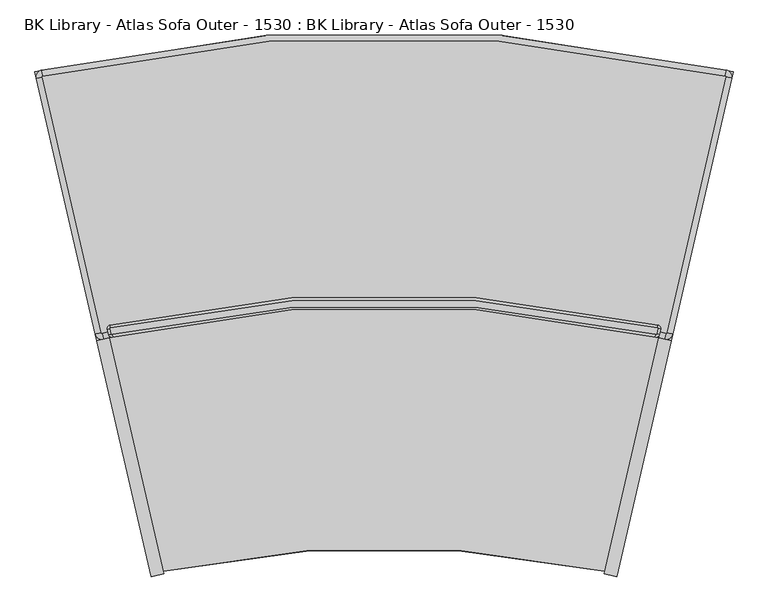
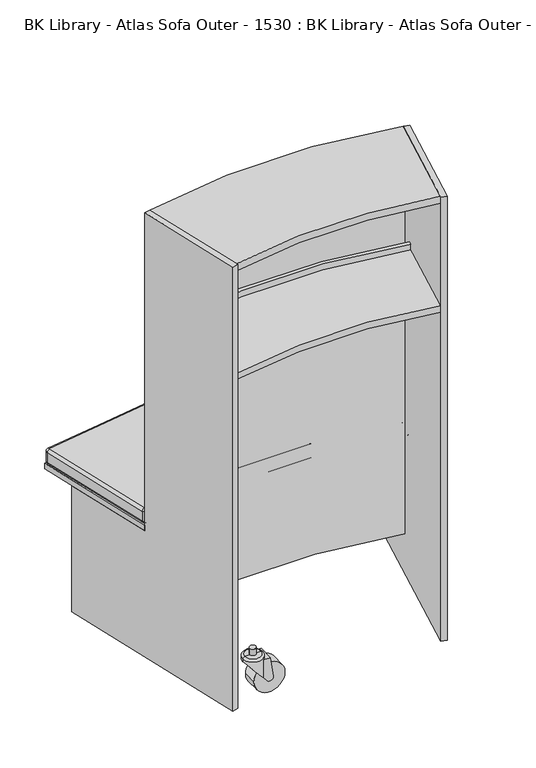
"""IFC4 building model written with IfcOpenShell, lengths in millimetres: furniture geometry, BK Library - Atlas Sofa Outer - 1530 : BK Library - Atlas Sofa Outer - 1530."""

from ifc_helpers import new_model, si_unit, point, frame, frame_2d, origin, place, context, project, spatial, polyline, circle_curve, ellipse_curve, trimmed, segment, composite_curve, outline, extrude, source, transform, mapped, element, save
from ifc_brep_helpers import plane_surface, cylinder_surface, revolved_surface, advanced_brep


def bk_library_atlas_sofa_outer_1530_bk_library_atlas_sofa_outer_527756fa(model_context):
    return source(origin(), model_context, "Body", "SolidModel", [
        extrude(outline(composite_curve([segment(trimmed(circle_curve(frame_2d((0.0, -1840.4430404)), 1557.6392973), [point((327.6944521, -317.663829))], [point((-327.6944521, -317.663829))], True, "CARTESIAN"), True, "CONTINUOUS"), segment(polyline([(-327.6944521, -317.663829), (-394.2058088, -29.2269986)]), True, "CONTINUOUS"), segment(trimmed(circle_curve(frame_2d((0.0, -1785.1487517)), 1799.627579), [point((-394.2058088, -29.2269986))], [point((394.2058088, -29.2269986))], False, "CARTESIAN"), True, "CONTINUOUS"), segment(polyline([(394.2058088, -29.2269986), (327.6944521, -317.663829)]), True, "CONTINUOUS")], self_intersect=False)), frame((0.0, 0.0, 1131.6999998), z_axis=(0.0, 0.0, 1.0), x_axis=(1.0, 0.0, 0.0)), (0.0, 0.0, 1.0), 22.0),
        extrude(outline(composite_curve([segment(trimmed(circle_curve(frame_2d((0.0, -1785.1487517)), 1799.627579), [point((-394.2058088, -29.2269986))], [point((394.2058088, -29.2269986))], False, "CARTESIAN"), True, "CONTINUOUS"), segment(polyline([(394.2058088, -29.2269986), (391.2848087, -41.8943694)]), True, "CONTINUOUS"), segment(trimmed(circle_curve(frame_2d((0.0, -1790.5831955)), 1791.9309172), [point((391.2848087, -41.8943694))], [point((-391.2848087, -41.8943694))], True, "CARTESIAN"), True, "CONTINUOUS"), segment(polyline([(-391.2848087, -41.8943694), (-394.2058088, -29.2269986)]), True, "CONTINUOUS")], self_intersect=False)), frame((0.0, 0.0, 1153.6999998), z_axis=(0.0, 0.0, 1.0), x_axis=(1.0, 0.0, 0.0)), (0.0, 0.0, 1.0), 20.0),
        advanced_brep(
        [(403.7139871, 34.2467546, 912.6999998), (404.9104332, 34.9971014, 912.6999998), (406.7463468, 42.9588262, 912.6999998), (405.9919545, 44.1590138, 912.6999998), (-405.9919545, 44.1590138, 912.6999998), (-406.7463468, 42.9588262, 912.6999998), (-404.9104332, 34.9971014, 912.6999998), (-403.7139871, 34.2467546, 912.6999998), (404.9104332, 34.9971014, 512.6999998), (403.7139871, 34.2467546, 512.6999998), (-403.7139871, 34.2467546, 512.6999998), (-404.9104332, 34.9971014, 512.6999998), (-406.7463468, 42.9588262, 512.6999998), (-405.9919545, 44.1590138, 512.6999998), (405.9919545, 44.1590138, 512.6999998), (406.7463468, 42.9588262, 512.6999998), (408.8081489, 34.0983176, 908.6999998), (402.8259182, 30.3465836, 908.6999998), (402.8259182, 30.3465836, 516.6999998), (408.8081489, 34.0983176, 516.6999998), (410.6440625, 42.0600424, 908.6999998), (410.6440625, 42.0600424, 516.6999998), (406.872101, 48.0609802, 908.6999998), (406.872101, 48.0609802, 516.6999998), (-406.872101, 48.0609802, 908.6999998), (-406.872101, 48.0609802, 516.6999998), (-410.6440625, 42.0600424, 908.6999998), (-410.6440625, 42.0600424, 516.6999998), (-408.8081489, 34.0983176, 908.6999998), (-408.8081489, 34.0983176, 516.6999998), (-402.8259182, 30.3465836, 908.6999998), (-402.8259182, 30.3465836, 516.6999998)],
        [
            (0, 1, circle_curve(frame((403.9360043, 35.2217973, 912.6999998), z_axis=(0.0, 0.0, 1.0), x_axis=(-0.22201720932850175, -0.9750427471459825, 0.0)), 1.0)),
            (1, 2),
            (2, 3, circle_curve(frame((405.7719179, 43.1835222, 912.6999998), z_axis=(0.0, 0.0, 1.0), x_axis=(0.9744289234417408, -0.22469595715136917, 0.0)), 1.0)),
            (3, 4, circle_curve(frame((0.0, -1755.7311313, 912.6999998), z_axis=(0.0, 0.0, 1.0), x_axis=(0.22003662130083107, 0.9754916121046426, 0.0)), 1845.1108372)),
            (4, 5, circle_curve(frame((-405.7719179, 43.1835222, 912.6999998), z_axis=(0.0, 0.0, 1.0), x_axis=(-0.22003662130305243, 0.9754916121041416, 0.0)), 1.0)),
            (5, 6),
            (6, 7, circle_curve(frame((-403.9360043, 35.2217973, 912.6999998), z_axis=(0.0, 0.0, 1.0), x_axis=(-0.97442892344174, -0.22469595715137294, 0.0)), 1.0)),
            (7, 0, circle_curve(frame((0.0, -1738.7617261, 912.6999998), z_axis=(0.0, 0.0, -1.0), x_axis=(-0.2220172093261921, 0.9750427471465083, 0.0)), 1818.3905125)),
            (8, 9, circle_curve(frame((403.9360043, 35.2217973, 512.6999998), z_axis=(0.0, 0.0, -1.0), x_axis=(-0.22201720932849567, -0.9750427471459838, 0.0)), 1.0)),
            (9, 10, circle_curve(frame((0.0, -1738.7617261, 512.6999998), z_axis=(0.0, 0.0, 1.0), x_axis=(-0.2220172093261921, 0.9750427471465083, 0.0)), 1818.3905125)),
            (10, 11, circle_curve(frame((-403.9360043, 35.2217973, 512.6999998), z_axis=(0.0, 0.0, -1.0), x_axis=(-0.97442892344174, -0.22469595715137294, 0.0)), 1.0)),
            (11, 12),
            (12, 13, circle_curve(frame((-405.7719179, 43.1835222, 512.6999998), z_axis=(0.0, 0.0, -1.0), x_axis=(-0.22003662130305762, 0.9754916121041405, 0.0)), 1.0)),
            (13, 14, circle_curve(frame((0.0, -1755.7311313, 512.6999998), z_axis=(0.0, 0.0, -1.0), x_axis=(0.22003662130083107, 0.9754916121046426, 0.0)), 1845.1108372)),
            (14, 15, circle_curve(frame((405.7719179, 43.1835222, 512.6999998), z_axis=(0.0, 0.0, -1.0), x_axis=(0.9744289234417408, -0.22469595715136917, 0.0)), 1.0)),
            (15, 8),
            (16, 17, circle_curve(frame((403.9360043, 35.2217973, 908.6999998), z_axis=(0.0, 0.0, -1.0), x_axis=(1.0, 0.0, 0.0)), 5.0)),
            (17, 18),
            (18, 19, circle_curve(frame((403.9360043, 35.2217973, 516.6999998), z_axis=(0.0, 0.0, 1.0), x_axis=(1.0, 0.0, 0.0)), 5.0)),
            (19, 16),
            (20, 16),
            (19, 21),
            (21, 20),
            (22, 20, circle_curve(frame((405.7719179, 43.1835222, 908.6999998), z_axis=(0.0, 0.0, -1.0), x_axis=(1.0, 0.0, 0.0)), 5.0)),
            (21, 23, circle_curve(frame((405.7719179, 43.1835222, 516.6999998), z_axis=(0.0, 0.0, 1.0), x_axis=(1.0, 0.0, 0.0)), 5.0)),
            (23, 22),
            (24, 22, circle_curve(frame((0.0, -1755.7311313, 908.6999998), z_axis=(0.0, 0.0, -1.0), x_axis=(1.0, 0.0, 0.0)), 1849.1108372)),
            (23, 25, circle_curve(frame((0.0, -1755.7311313, 516.6999998), z_axis=(0.0, 0.0, 1.0), x_axis=(1.0, 0.0, 0.0)), 1849.1108372)),
            (25, 24),
            (26, 24, circle_curve(frame((-405.7719179, 43.1835222, 908.6999998), z_axis=(0.0, 0.0, -1.0), x_axis=(1.0, 0.0, 0.0)), 5.0)),
            (25, 27, circle_curve(frame((-405.7719179, 43.1835222, 516.6999998), z_axis=(0.0, 0.0, 1.0), x_axis=(1.0, 0.0, 0.0)), 5.0)),
            (27, 26),
            (28, 26),
            (27, 29),
            (29, 28),
            (30, 28, circle_curve(frame((-403.9360043, 35.2217973, 908.6999998), z_axis=(0.0, 0.0, -1.0), x_axis=(1.0, 0.0, 0.0)), 5.0)),
            (29, 31, circle_curve(frame((-403.9360043, 35.2217973, 516.6999998), z_axis=(0.0, 0.0, 1.0), x_axis=(1.0, 0.0, 0.0)), 5.0)),
            (31, 30),
            (17, 30, circle_curve(frame((0.0, -1738.7617261, 908.6999998), z_axis=(0.0, 0.0, 1.0), x_axis=(1.0, 0.0, 0.0)), 1814.3905125)),
            (31, 18, circle_curve(frame((0.0, -1738.7617261, 516.6999998), z_axis=(0.0, 0.0, -1.0), x_axis=(1.0, 0.0, 0.0)), 1814.3905125)),
            (16, 1, circle_curve(frame((404.9104332, 34.9971014, 908.6999998), z_axis=(-0.22469595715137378, -0.9744289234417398, 0.0), x_axis=(-0.9744289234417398, 0.22469595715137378, 0.0)), 4.0)),
            (0, 17, circle_curve(frame((403.7139871, 34.2467546, 908.6999998), z_axis=(0.9750427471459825, -0.2220172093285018, 0.0), x_axis=(0.2220172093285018, 0.9750427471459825, 0.0)), 4.0)),
            (20, 2, circle_curve(frame((406.7463468, 42.9588262, 908.6999998), z_axis=(-0.22469595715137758, -0.974428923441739, 0.0), x_axis=(-0.974428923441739, 0.22469595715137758, 0.0)), 4.0)),
            (22, 3, circle_curve(frame((405.9919545, 44.1590138, 908.6999998), z_axis=(0.9754916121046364, -0.22003662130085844, 0.0), x_axis=(-0.22003662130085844, -0.9754916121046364, 0.0)), 4.0)),
            (24, 4, circle_curve(frame((-405.9919545, 44.1590138, 908.6999998), z_axis=(0.9754916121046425, 0.22003662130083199, 0.0), x_axis=(0.22003662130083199, -0.9754916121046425, 0.0)), 4.0)),
            (26, 5, circle_curve(frame((-406.7463468, 42.9588262, 908.6999998), z_axis=(-0.22469595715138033, 0.9744289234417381, 0.0), x_axis=(0.9744289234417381, 0.22469595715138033, 0.0)), 4.0)),
            (28, 6, circle_curve(frame((-404.9104332, 34.9971014, 908.6999998), z_axis=(-0.22469595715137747, 0.974428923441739, 0.0), x_axis=(0.974428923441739, 0.22469595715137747, 0.0)), 4.0)),
            (30, 7, circle_curve(frame((-403.7139871, 34.2467546, 908.6999998), z_axis=(-0.9750427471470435, -0.22201720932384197, 0.0), x_axis=(-0.22201720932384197, 0.9750427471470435, 0.0)), 4.0)),
            (8, 19, circle_curve(frame((404.9104332, 34.9971014, 516.6999998), z_axis=(-0.22469595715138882, -0.9744289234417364, 0.0), x_axis=(-0.9744289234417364, 0.22469595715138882, 0.0)), 4.0)),
            (18, 9, circle_curve(frame((403.7139871, 34.2467546, 516.6999998), z_axis=(0.9750427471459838, -0.22201720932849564, 0.0), x_axis=(0.22201720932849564, 0.9750427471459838, 0.0)), 4.0)),
            (15, 21, circle_curve(frame((406.7463468, 42.9588262, 516.6999998), z_axis=(-0.2246959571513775, -0.974428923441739, 0.0), x_axis=(-0.974428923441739, 0.2246959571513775, 0.0)), 4.0)),
            (14, 23, circle_curve(frame((405.9919545, 44.1590138, 516.6999998), z_axis=(0.9754916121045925, -0.2200366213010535, 0.0), x_axis=(-0.2200366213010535, -0.9754916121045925, 0.0)), 4.0)),
            (13, 25, circle_curve(frame((-405.9919545, 44.1590138, 516.6999998), z_axis=(0.9754916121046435, 0.22003662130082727, 0.0), x_axis=(0.22003662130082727, -0.9754916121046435, 0.0)), 4.0)),
            (12, 27, circle_curve(frame((-406.7463468, 42.9588262, 516.6999998), z_axis=(-0.22469595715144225, 0.974428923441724, 0.0), x_axis=(0.974428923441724, 0.22469595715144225, 0.0)), 4.0)),
            (11, 29, circle_curve(frame((-404.9104332, 34.9971014, 516.6999998), z_axis=(-0.22469595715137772, 0.974428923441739, 0.0), x_axis=(0.974428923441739, 0.22469595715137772, 0.0)), 4.0)),
            (10, 31, circle_curve(frame((-403.7139871, 34.2467546, 516.6999998), z_axis=(-0.9750427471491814, -0.22201720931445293, 0.0), x_axis=(-0.22201720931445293, 0.9750427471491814, 0.0)), 4.0)),
        ],
        [
            plane_surface(frame((408.9360043, 35.2217973, 912.6999998), z_axis=(0.0, 0.0, 1.0), x_axis=(0.0, 1.0, 0.0))),
            plane_surface(frame((408.9360043, 35.2217973, 512.6999998), z_axis=(0.0, 0.0, -1.0), x_axis=(0.0, -1.0, 0.0))),
            cylinder_surface(frame((403.9360043, 35.2217973, 512.6999998), z_axis=(0.0, 0.0, 1.0), x_axis=(1.0, 0.0, 0.0)), 5.0),
            plane_surface(frame((408.8081489, 34.0983176, 912.6999998), z_axis=(0.9744289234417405, -0.22469595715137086, 0.0), x_axis=(0.0, 0.0, -1.0))),
            cylinder_surface(frame((405.7719179, 43.1835222, 512.6999998), z_axis=(0.0, 0.0, 1.0), x_axis=(1.0, 0.0, 0.0)), 5.0),
            cylinder_surface(frame((0.0, -1755.7311313, 512.6999998), z_axis=(0.0, 0.0, 1.0), x_axis=(1.0, 0.0, 0.0)), 1849.1108372),
            cylinder_surface(frame((-405.7719179, 43.1835222, 512.6999998), z_axis=(0.0, 0.0, 1.0), x_axis=(1.0, 0.0, 0.0)), 5.0),
            plane_surface(frame((-410.6440625, 42.0600424, 912.6999998), z_axis=(-0.974428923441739, -0.2246959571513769, 0.0), x_axis=(0.0, 0.0, -1.0))),
            cylinder_surface(frame((-403.9360043, 35.2217973, 512.6999998), z_axis=(0.0, 0.0, 1.0), x_axis=(1.0, 0.0, 0.0)), 5.0),
            revolved_surface(polyline([(1814.3905125, -1738.7617261, 516.6999998), (1814.3905125, -1738.7617261, 908.6999998)]), (0.0, -1738.7617261, 512.6999998), (0.0, 0.0, -1.0)),
            revolved_surface(trimmed(ellipse_curve(frame((403.7139871, 34.2467546, 908.6999998), z_axis=(-0.9750427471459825, 0.2220172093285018, 0.0), x_axis=(0.2220172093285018, 0.9750427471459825, 0.0)), 4.0, 4.0), [point((402.8259182, 30.3465836, 908.6999998))], [point((403.7139871, 34.2467546, 912.6999998))], True, "CARTESIAN"), (403.9360043, 35.2217973, 0.0), (0.0, 0.0, 1.0)),
            cylinder_surface(frame((404.9104332, 34.9971014, 908.6999998), z_axis=(0.22469595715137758, 0.974428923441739, 0.0), x_axis=(-0.974428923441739, 0.22469595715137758, 0.0)), 4.0),
            revolved_surface(trimmed(ellipse_curve(frame((406.7463468, 42.9588262, 908.6999998), z_axis=(-0.22469595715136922, -0.9744289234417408, 0.0), x_axis=(-0.9744289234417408, 0.22469595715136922, 0.0)), 4.0, 4.0), [point((410.6440625, 42.0600424, 908.6999998))], [point((406.7463468, 42.9588262, 912.6999998))], True, "CARTESIAN"), (405.7719179, 43.1835222, 0.0), (0.0, 0.0, 1.0)),
            revolved_surface(trimmed(ellipse_curve(frame((405.9919545, 44.1590138, 908.6999998), z_axis=(0.9754916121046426, -0.2200366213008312, 0.0), x_axis=(-0.2200366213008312, -0.9754916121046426, 0.0)), 4.0, 4.0), [point((406.872101, 48.0609802, 908.6999998))], [point((405.9919545, 44.1590138, 912.6999998))], True, "CARTESIAN"), (0.0, -1755.7311313, 0.0), (0.0, 0.0, 1.0)),
            revolved_surface(trimmed(ellipse_curve(frame((-405.9919545, 44.1590138, 908.6999998), z_axis=(0.9754916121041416, 0.22003662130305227, 0.0), x_axis=(0.22003662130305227, -0.9754916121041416, 0.0)), 4.0, 4.0), [point((-406.872101, 48.0609802, 908.6999998))], [point((-405.9919545, 44.1590138, 912.6999998))], True, "CARTESIAN"), (-405.7719179, 43.1835222, 0.0), (0.0, 0.0, 1.0)),
            cylinder_surface(frame((-406.7463468, 42.9588262, 908.6999998), z_axis=(0.22469595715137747, -0.974428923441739, 0.0), x_axis=(0.974428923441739, 0.22469595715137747, 0.0)), 4.0),
            revolved_surface(trimmed(ellipse_curve(frame((-404.9104332, 34.9971014, 908.6999998), z_axis=(-0.2246959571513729, 0.97442892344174, 0.0), x_axis=(0.97442892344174, 0.2246959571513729, 0.0)), 4.0, 4.0), [point((-408.8081489, 34.0983176, 908.6999998))], [point((-404.9104332, 34.9971014, 912.6999998))], True, "CARTESIAN"), (-403.9360043, 35.2217973, 0.0), (0.0, 0.0, 1.0)),
            revolved_surface(trimmed(ellipse_curve(frame((-403.7139871, 34.2467546, 908.6999998), z_axis=(-0.9750427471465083, -0.22201720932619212, 0.0), x_axis=(-0.22201720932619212, 0.9750427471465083, 0.0)), 4.0, 4.0), [point((-402.8259182, 30.3465836, 908.6999998))], [point((-403.7139871, 34.2467546, 912.6999998))], True, "CARTESIAN"), (0.0, -1738.7617261, 0.0), (0.0, 0.0, -1.0)),
            revolved_surface(trimmed(ellipse_curve(frame((403.7139871, 34.2467546, 516.6999998), z_axis=(-0.9750427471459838, 0.22201720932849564, 0.0), x_axis=(0.22201720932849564, 0.9750427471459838, 0.0)), 4.0, 4.0), [point((403.7139871, 34.2467546, 512.6999998))], [point((402.8259182, 30.3465836, 516.6999998))], True, "CARTESIAN"), (403.9360043, 35.2217973, 1425.3999996), (0.0, 0.0, 1.0)),
            cylinder_surface(frame((404.9104332, 34.9971014, 516.6999998), z_axis=(0.2246959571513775, 0.974428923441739, 0.0), x_axis=(-0.974428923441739, 0.2246959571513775, 0.0)), 4.0),
            revolved_surface(trimmed(ellipse_curve(frame((406.7463468, 42.9588262, 516.6999998), z_axis=(-0.22469595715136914, -0.9744289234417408, 0.0), x_axis=(-0.9744289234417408, 0.22469595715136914, 0.0)), 4.0, 4.0), [point((406.7463468, 42.9588262, 512.6999998))], [point((410.6440625, 42.0600424, 516.6999998))], True, "CARTESIAN"), (405.7719179, 43.1835222, 1425.3999996), (0.0, 0.0, 1.0)),
            revolved_surface(trimmed(ellipse_curve(frame((405.9919545, 44.1590138, 516.6999998), z_axis=(0.9754916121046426, -0.22003662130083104, 0.0), x_axis=(-0.22003662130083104, -0.9754916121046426, 0.0)), 4.0, 4.0), [point((405.9919545, 44.1590138, 512.6999998))], [point((406.872101, 48.0609802, 516.6999998))], True, "CARTESIAN"), (0.0, -1755.7311313, 1425.3999996), (0.0, 0.0, 1.0)),
            revolved_surface(trimmed(ellipse_curve(frame((-405.9919545, 44.1590138, 516.6999998), z_axis=(0.9754916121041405, 0.2200366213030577, 0.0), x_axis=(0.2200366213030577, -0.9754916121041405, 0.0)), 4.0, 4.0), [point((-405.9919545, 44.1590138, 512.6999998))], [point((-406.872101, 48.0609802, 516.6999998))], True, "CARTESIAN"), (-405.7719179, 43.1835222, 1425.3999996), (0.0, 0.0, 1.0)),
            cylinder_surface(frame((-406.7463468, 42.9588262, 516.6999998), z_axis=(0.22469595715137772, -0.974428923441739, 0.0), x_axis=(0.974428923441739, 0.22469595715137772, 0.0)), 4.0),
            revolved_surface(trimmed(ellipse_curve(frame((-404.9104332, 34.9971014, 516.6999998), z_axis=(-0.22469595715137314, 0.97442892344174, 0.0), x_axis=(0.97442892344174, 0.22469595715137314, 0.0)), 4.0, 4.0), [point((-404.9104332, 34.9971014, 512.6999998))], [point((-408.8081489, 34.0983176, 516.6999998))], True, "CARTESIAN"), (-403.9360043, 35.2217973, 1425.3999996), (0.0, 0.0, 1.0)),
            revolved_surface(trimmed(ellipse_curve(frame((-403.7139871, 34.2467546, 516.6999998), z_axis=(-0.9750427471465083, -0.22201720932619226, 0.0), x_axis=(-0.22201720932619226, 0.9750427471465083, 0.0)), 4.0, 4.0), [point((-403.7139871, 34.2467546, 512.6999998))], [point((-402.8259182, 30.3465836, 516.6999998))], True, "CARTESIAN"), (0.0, -1738.7617261, 1425.3999996), (0.0, 0.0, -1.0)),
        ],
        [
            (0, [[1, 2, 3, 4, 5, 6, 7, 8]]),
            (1, [[9, 10, 11, 12, 13, 14, 15, 16]]),
            (2, [[17, 18, 19, 20]]),
            (3, [[21, -20, 22, 23]]),
            (4, [[24, -23, 25, 26]]),
            (5, [[27, -26, 28, 29]]),
            (6, [[30, -29, 31, 32]]),
            (7, [[33, -32, 34, 35]]),
            (8, [[36, -35, 37, 38]]),
            (9, [[39, -38, 40, -18]]),
            (10, [[41, -1, 42, -17]]),
            (11, [[-41, -21, 43, -2]]),
            (12, [[-43, -24, 44, -3]]),
            (13, [[-44, -27, 45, -4]]),
            (14, [[-45, -30, 46, -5]]),
            (15, [[-46, -33, 47, -6]]),
            (16, [[-47, -36, 48, -7]]),
            (17, [[-42, -8, -48, -39]]),
            (18, [[49, -19, 50, -9]]),
            (19, [[-49, -16, 51, -22]]),
            (20, [[-51, -15, 52, -25]]),
            (21, [[-52, -14, 53, -28]]),
            (22, [[-53, -13, 54, -31]]),
            (23, [[-54, -12, 55, -34]]),
            (24, [[-55, -11, 56, -37]]),
            (25, [[-50, -40, -56, -10]]),
        ],
    ),
        advanced_brep(
        [(-419.6774617, 36.7301974, 512.6999998), (-418.4783368, 35.9804644, 512.6999998), (-409.7084765, 38.002728, 512.6999998), (409.7084765, 38.002728, 512.6999998), (418.4783368, 35.9804644, 512.6999998), (419.6774617, 36.7301974, 512.6999998), (507.3202, 416.806547, 512.6999998), (506.5732105, 418.0050352, 512.6999998), (-506.5732105, 418.0050352, 512.6999998), (-507.3202, 416.806547, 512.6999998), (-418.4783368, 35.9804644, 462.6999998), (-419.6774617, 36.7301974, 462.6999998), (-507.3202, 416.806547, 462.6999998), (-506.5732105, 418.0050352, 462.6999998), (506.5732105, 418.0050352, 462.6999998), (507.3202, 416.806547, 462.6999998), (419.6774617, 36.7301974, 462.6999998), (418.4783368, 35.9804644, 462.6999998), (409.7084765, 38.002728, 462.6999998), (-409.7084765, 38.002728, 462.6999998), (-516.0900603, 414.7842834, 503.6999998), (-508.6201649, 426.7691653, 503.6999998), (-508.6201649, 426.7691653, 471.6999998), (-516.0900603, 414.7842834, 471.6999998), (-428.447322, 34.7079338, 503.6999998), (-428.447322, 34.7079338, 471.6999998), (-416.4560732, 27.2106041, 503.6999998), (-416.4560732, 27.2106041, 471.6999998), (-407.6862129, 29.2328677, 503.6999998), (-407.6862129, 29.2328677, 471.6999998), (407.6862129, 29.2328677, 503.6999998), (407.6862129, 29.2328677, 471.6999998), (416.4560732, 27.2106041, 503.6999998), (416.4560732, 27.2106041, 471.6999998), (428.447322, 34.7079338, 503.6999998), (428.447322, 34.7079338, 471.6999998), (516.0900603, 414.7842834, 503.6999998), (516.0900603, 414.7842834, 471.6999998), (508.6201649, 426.7691653, 503.6999998), (508.6201649, 426.7691653, 471.6999998)],
        [
            (0, 1, circle_curve(frame((-418.7030327, 36.9548933, 512.6999998), z_axis=(0.0, 0.0, 1.0), x_axis=(-0.9744289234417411, -0.22469595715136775, 0.0)), 1.0)),
            (1, 2),
            (2, 3, circle_curve(frame((0.0, -1738.7617261, 512.6999998), z_axis=(0.0, 0.0, -1.0), x_axis=(-0.22469595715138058, 0.9744289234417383, 0.0)), 1823.3905125)),
            (3, 4),
            (4, 5, circle_curve(frame((418.7030327, 36.9548933, 512.6999998), z_axis=(0.0, 0.0, 1.0), x_axis=(-0.22469595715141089, -0.9744289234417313, 0.0)), 1.0)),
            (5, 6),
            (6, 7, circle_curve(frame((506.3457711, 417.0312429, 512.6999998), z_axis=(0.0, 0.0, 1.0), x_axis=(0.9744289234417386, -0.2246959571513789, 0.0)), 1.0)),
            (7, 8, circle_curve(frame((0.0, -1750.9115951, 512.6999998), z_axis=(0.0, 0.0, 1.0), x_axis=(0.22743938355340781, 0.9737922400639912, 0.0)), 2227.2888826)),
            (8, 9, circle_curve(frame((-506.3457711, 417.0312429, 512.6999998), z_axis=(0.0, 0.0, 1.0), x_axis=(-0.22743938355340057, 0.9737922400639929, 0.0)), 1.0)),
            (9, 0),
            (10, 11, circle_curve(frame((-418.7030327, 36.9548933, 462.6999998), z_axis=(0.0, 0.0, -1.0), x_axis=(-0.9744289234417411, -0.22469595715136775, 0.0)), 1.0)),
            (11, 12),
            (12, 13, circle_curve(frame((-506.3457711, 417.0312429, 462.6999998), z_axis=(0.0, 0.0, -1.0), x_axis=(-0.22743938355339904, 0.9737922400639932, 0.0)), 1.0)),
            (13, 14, circle_curve(frame((0.0, -1750.9115951, 462.6999998), z_axis=(0.0, 0.0, -1.0), x_axis=(0.22743938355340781, 0.9737922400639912, 0.0)), 2227.2888826)),
            (14, 15, circle_curve(frame((506.3457711, 417.0312429, 462.6999998), z_axis=(0.0, 0.0, -1.0), x_axis=(0.9744289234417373, -0.224695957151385, 0.0)), 1.0)),
            (15, 16),
            (16, 17, circle_curve(frame((418.7030327, 36.9548933, 462.6999998), z_axis=(0.0, 0.0, -1.0), x_axis=(-0.22469595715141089, -0.9744289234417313, 0.0)), 1.0)),
            (17, 18),
            (18, 19, circle_curve(frame((0.0, -1738.7617261, 462.6999998), z_axis=(0.0, 0.0, 1.0), x_axis=(-0.22469595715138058, 0.9744289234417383, 0.0)), 1823.3905125)),
            (19, 10),
            (20, 21, circle_curve(frame((-506.3457711, 417.0312429, 503.6999998), z_axis=(0.0, 0.0, -1.0), x_axis=(1.0, 0.0, 0.0)), 10.0)),
            (21, 22),
            (22, 23, circle_curve(frame((-506.3457711, 417.0312429, 471.6999998), z_axis=(0.0, 0.0, 1.0), x_axis=(1.0, 0.0, 0.0)), 10.0)),
            (23, 20),
            (24, 20),
            (23, 25),
            (25, 24),
            (26, 24, circle_curve(frame((-418.7030327, 36.9548933, 503.6999998), z_axis=(0.0, 0.0, -1.0), x_axis=(1.0, 0.0, 0.0)), 10.0)),
            (25, 27, circle_curve(frame((-418.7030327, 36.9548933, 471.6999998), z_axis=(0.0, 0.0, 1.0), x_axis=(1.0, 0.0, 0.0)), 10.0)),
            (27, 26),
            (28, 26),
            (27, 29),
            (29, 28),
            (30, 28, circle_curve(frame((0.0, -1738.7617261, 503.6999998), z_axis=(0.0, 0.0, 1.0), x_axis=(1.0, 0.0, 0.0)), 1814.3905125)),
            (29, 31, circle_curve(frame((0.0, -1738.7617261, 471.6999998), z_axis=(0.0, 0.0, -1.0), x_axis=(1.0, 0.0, 0.0)), 1814.3905125)),
            (31, 30),
            (32, 30),
            (31, 33),
            (33, 32),
            (34, 32, circle_curve(frame((418.7030327, 36.9548933, 503.6999998), z_axis=(0.0, 0.0, -1.0), x_axis=(1.0, 0.0, 0.0)), 10.0)),
            (33, 35, circle_curve(frame((418.7030327, 36.9548933, 471.6999998), z_axis=(0.0, 0.0, 1.0), x_axis=(1.0, 0.0, 0.0)), 10.0)),
            (35, 34),
            (36, 34),
            (35, 37),
            (37, 36),
            (38, 36, circle_curve(frame((506.3457711, 417.0312429, 503.6999998), z_axis=(0.0, 0.0, -1.0), x_axis=(1.0, 0.0, 0.0)), 10.0)),
            (37, 39, circle_curve(frame((506.3457711, 417.0312429, 471.6999998), z_axis=(0.0, 0.0, 1.0), x_axis=(1.0, 0.0, 0.0)), 10.0)),
            (39, 38),
            (21, 38, circle_curve(frame((0.0, -1750.9115951, 503.6999998), z_axis=(0.0, 0.0, -1.0), x_axis=(1.0, 0.0, 0.0)), 2236.2888826)),
            (39, 22, circle_curve(frame((0.0, -1750.9115951, 471.6999998), z_axis=(0.0, 0.0, 1.0), x_axis=(1.0, 0.0, 0.0)), 2236.2888826)),
            (26, 1, circle_curve(frame((-418.4783368, 35.9804644, 503.6999998), z_axis=(-0.9744289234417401, -0.22469595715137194, 0.0), x_axis=(-0.22469595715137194, 0.9744289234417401, 0.0)), 9.0)),
            (0, 24, circle_curve(frame((-419.6774617, 36.7301974, 503.6999998), z_axis=(0.22469595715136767, -0.9744289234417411, 0.0), x_axis=(0.9744289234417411, 0.22469595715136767, 0.0)), 9.0)),
            (28, 2, circle_curve(frame((-409.7084765, 38.002728, 503.6999998), z_axis=(-0.9744289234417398, -0.2246959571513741, 0.0), x_axis=(-0.2246959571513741, 0.9744289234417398, 0.0)), 9.0)),
            (30, 3, circle_curve(frame((409.7084765, 38.002728, 503.6999998), z_axis=(-0.9744289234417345, 0.22469595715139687, 0.0), x_axis=(0.22469595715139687, 0.9744289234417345, 0.0)), 9.0)),
            (32, 4, circle_curve(frame((418.4783368, 35.9804644, 503.6999998), z_axis=(-0.974428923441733, 0.22469595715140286, 0.0), x_axis=(0.22469595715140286, 0.974428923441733, 0.0)), 9.0)),
            (34, 5, circle_curve(frame((419.6774617, 36.7301974, 503.6999998), z_axis=(-0.22469595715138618, -0.9744289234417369, 0.0), x_axis=(-0.9744289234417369, 0.22469595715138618, 0.0)), 9.0)),
            (36, 6, circle_curve(frame((507.3202, 416.806547, 503.6999998), z_axis=(-0.22469595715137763, -0.9744289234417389, 0.0), x_axis=(-0.9744289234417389, 0.22469595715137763, 0.0)), 9.0)),
            (38, 7, circle_curve(frame((506.5732105, 418.0050352, 503.6999998), z_axis=(0.9737922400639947, -0.22743938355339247, 0.0), x_axis=(-0.22743938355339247, -0.9737922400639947, 0.0)), 9.0)),
            (21, 8, circle_curve(frame((-506.5732105, 418.0050352, 503.6999998), z_axis=(0.9737922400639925, 0.22743938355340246, 0.0), x_axis=(0.22743938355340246, -0.9737922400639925, 0.0)), 9.0)),
            (20, 9, circle_curve(frame((-507.3202, 416.806547, 503.6999998), z_axis=(-0.22469595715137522, 0.9744289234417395, 0.0), x_axis=(0.9744289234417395, 0.22469595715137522, 0.0)), 9.0)),
            (10, 27, circle_curve(frame((-418.4783368, 35.9804644, 471.6999998), z_axis=(-0.9744289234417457, -0.22469595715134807, 0.0), x_axis=(-0.22469595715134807, 0.9744289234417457, 0.0)), 9.0)),
            (25, 11, circle_curve(frame((-419.6774617, 36.7301974, 471.6999998), z_axis=(0.22469595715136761, -0.9744289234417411, 0.0), x_axis=(0.9744289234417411, 0.22469595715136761, 0.0)), 9.0)),
            (19, 29, circle_curve(frame((-409.7084765, 38.002728, 471.6999998), z_axis=(-0.9744289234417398, -0.224695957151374, 0.0), x_axis=(-0.224695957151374, 0.9744289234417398, 0.0)), 9.0)),
            (18, 31, circle_curve(frame((409.7084765, 38.002728, 471.6999998), z_axis=(-0.9744289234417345, 0.22469595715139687, 0.0), x_axis=(0.22469595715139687, 0.9744289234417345, 0.0)), 9.0)),
            (17, 33, circle_curve(frame((418.4783368, 35.9804644, 471.6999998), z_axis=(-0.9744289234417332, 0.22469595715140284, 0.0), x_axis=(0.22469595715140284, 0.9744289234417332, 0.0)), 9.0)),
            (16, 35, circle_curve(frame((419.6774617, 36.7301974, 471.6999998), z_axis=(-0.22469595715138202, -0.9744289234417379, 0.0), x_axis=(-0.9744289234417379, 0.22469595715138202, 0.0)), 9.0)),
            (15, 37, circle_curve(frame((507.3202, 416.806547, 471.6999998), z_axis=(-0.22469595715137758, -0.9744289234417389, 0.0), x_axis=(-0.9744289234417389, 0.22469595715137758, 0.0)), 9.0)),
            (14, 39, circle_curve(frame((506.5732105, 418.0050352, 471.6999998), z_axis=(0.9737922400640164, -0.2274393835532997, 0.0), x_axis=(-0.2274393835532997, -0.9737922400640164, 0.0)), 9.0)),
            (13, 22, circle_curve(frame((-506.5732105, 418.0050352, 471.6999998), z_axis=(0.9737922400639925, 0.22743938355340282, 0.0), x_axis=(0.22743938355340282, -0.9737922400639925, 0.0)), 9.0)),
            (12, 23, circle_curve(frame((-507.3202, 416.806547, 471.6999998), z_axis=(-0.2246959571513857, 0.974428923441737, 0.0), x_axis=(0.974428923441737, 0.2246959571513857, 0.0)), 9.0)),
        ],
        [
            plane_surface(frame((-496.3457711, 417.0312429, 512.6999998), z_axis=(0.0, 0.0, 1.0), x_axis=(0.0, 1.0, 0.0))),
            plane_surface(frame((-496.3457711, 417.0312429, 462.6999998), z_axis=(0.0, 0.0, -1.0), x_axis=(0.0, -1.0, 0.0))),
            cylinder_surface(frame((-506.3457711, 417.0312429, 462.6999998), z_axis=(0.0, 0.0, 1.0), x_axis=(1.0, 0.0, 0.0)), 10.0),
            plane_surface(frame((-516.0900603, 414.7842834, 512.6999998), z_axis=(-0.9744289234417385, -0.22469595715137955, 0.0), x_axis=(0.0, 0.0, -1.0))),
            cylinder_surface(frame((-418.7030327, 36.9548933, 462.6999998), z_axis=(0.0, 0.0, 1.0), x_axis=(1.0, 0.0, 0.0)), 10.0),
            plane_surface(frame((-416.4560732, 27.2106041, 512.6999998), z_axis=(0.22469595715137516, -0.9744289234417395, 0.0), x_axis=(0.0, 0.0, -1.0))),
            revolved_surface(polyline([(1814.3905125, -1738.7617261, 471.6999998), (1814.3905125, -1738.7617261, 503.6999998)]), (0.0, -1738.7617261, 462.6999998), (0.0, 0.0, -1.0)),
            plane_surface(frame((407.6862129, 29.2328677, 512.6999998), z_axis=(-0.22469595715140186, -0.9744289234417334, 0.0), x_axis=(0.0, 0.0, -1.0))),
            cylinder_surface(frame((418.7030327, 36.9548933, 462.6999998), z_axis=(0.0, 0.0, 1.0), x_axis=(1.0, 0.0, 0.0)), 10.0),
            plane_surface(frame((428.447322, 34.7079338, 512.6999998), z_axis=(0.9744289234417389, -0.2246959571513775, 0.0), x_axis=(0.0, 0.0, -1.0))),
            cylinder_surface(frame((506.3457711, 417.0312429, 462.6999998), z_axis=(0.0, 0.0, 1.0), x_axis=(1.0, 0.0, 0.0)), 10.0),
            cylinder_surface(frame((0.0, -1750.9115951, 462.6999998), z_axis=(0.0, 0.0, 1.0), x_axis=(1.0, 0.0, 0.0)), 2236.2888826),
            revolved_surface(trimmed(ellipse_curve(frame((-419.6774617, 36.7301974, 503.6999998), z_axis=(-0.22469595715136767, 0.9744289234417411, 0.0), x_axis=(0.9744289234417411, 0.22469595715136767, 0.0)), 9.0, 9.0), [point((-428.447322, 34.7079338, 503.6999998))], [point((-419.6774617, 36.7301974, 512.6999998))], True, "CARTESIAN"), (-418.7030327, 36.9548933, 0.0), (0.0, 0.0, 1.0)),
            cylinder_surface(frame((-418.4783368, 35.9804644, 503.6999998), z_axis=(0.9744289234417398, 0.2246959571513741, 0.0), x_axis=(-0.2246959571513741, 0.9744289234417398, 0.0)), 9.0),
            revolved_surface(trimmed(ellipse_curve(frame((-409.7084765, 38.002728, 503.6999998), z_axis=(-0.9744289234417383, -0.22469595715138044, 0.0), x_axis=(-0.22469595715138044, 0.9744289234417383, 0.0)), 9.0, 9.0), [point((-407.6862129, 29.2328677, 503.6999998))], [point((-409.7084765, 38.002728, 512.6999998))], True, "CARTESIAN"), (0.0, -1738.7617261, 0.0), (0.0, 0.0, -1.0)),
            cylinder_surface(frame((409.7084765, 38.002728, 503.6999998), z_axis=(0.974428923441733, -0.22469595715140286, 0.0), x_axis=(0.22469595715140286, 0.974428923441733, 0.0)), 9.0),
            revolved_surface(trimmed(ellipse_curve(frame((418.4783368, 35.9804644, 503.6999998), z_axis=(-0.9744289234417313, 0.224695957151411, 0.0), x_axis=(0.224695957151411, 0.9744289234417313, 0.0)), 9.0, 9.0), [point((416.4560732, 27.2106041, 503.6999998))], [point((418.4783368, 35.9804644, 512.6999998))], True, "CARTESIAN"), (418.7030327, 36.9548933, 0.0), (0.0, 0.0, 1.0)),
            cylinder_surface(frame((419.6774617, 36.7301974, 503.6999998), z_axis=(0.22469595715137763, 0.9744289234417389, 0.0), x_axis=(-0.9744289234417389, 0.22469595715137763, 0.0)), 9.0),
            revolved_surface(trimmed(ellipse_curve(frame((507.3202, 416.806547, 503.6999998), z_axis=(-0.2246959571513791, -0.9744289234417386, 0.0), x_axis=(-0.9744289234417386, 0.2246959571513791, 0.0)), 9.0, 9.0), [point((516.0900603, 414.7842834, 503.6999998))], [point((507.3202, 416.806547, 512.6999998))], True, "CARTESIAN"), (506.3457711, 417.0312429, 0.0), (0.0, 0.0, 1.0)),
            revolved_surface(trimmed(ellipse_curve(frame((506.5732105, 418.0050352, 503.6999998), z_axis=(0.9737922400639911, -0.22743938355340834, 0.0), x_axis=(-0.22743938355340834, -0.9737922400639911, 0.0)), 9.0, 9.0), [point((508.6201649, 426.7691653, 503.6999998))], [point((506.5732105, 418.0050352, 512.6999998))], True, "CARTESIAN"), (0.0, -1750.9115951, 0.0), (0.0, 0.0, 1.0)),
            revolved_surface(trimmed(ellipse_curve(frame((-506.5732105, 418.0050352, 503.6999998), z_axis=(0.973792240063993, 0.22743938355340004, 0.0), x_axis=(0.22743938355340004, -0.973792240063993, 0.0)), 9.0, 9.0), [point((-508.6201649, 426.7691653, 503.6999998))], [point((-506.5732105, 418.0050352, 512.6999998))], True, "CARTESIAN"), (-506.3457711, 417.0312429, 0.0), (0.0, 0.0, 1.0)),
            cylinder_surface(frame((-507.3202, 416.806547, 503.6999998), z_axis=(0.22469595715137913, -0.9744289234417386, 0.0), x_axis=(0.9744289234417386, 0.22469595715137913, 0.0)), 9.0),
            revolved_surface(trimmed(ellipse_curve(frame((-419.6774617, 36.7301974, 471.6999998), z_axis=(-0.22469595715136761, 0.9744289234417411, 0.0), x_axis=(0.9744289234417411, 0.22469595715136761, 0.0)), 9.0, 9.0), [point((-419.6774617, 36.7301974, 462.6999998))], [point((-428.447322, 34.7079338, 471.6999998))], True, "CARTESIAN"), (-418.7030327, 36.9548933, 975.3999996), (0.0, 0.0, 1.0)),
            cylinder_surface(frame((-418.4783368, 35.9804644, 471.6999998), z_axis=(0.9744289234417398, 0.224695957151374, 0.0), x_axis=(-0.224695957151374, 0.9744289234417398, 0.0)), 9.0),
            revolved_surface(trimmed(ellipse_curve(frame((-409.7084765, 38.002728, 471.6999998), z_axis=(-0.9744289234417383, -0.22469595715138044, 0.0), x_axis=(-0.22469595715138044, 0.9744289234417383, 0.0)), 9.0, 9.0), [point((-409.7084765, 38.002728, 462.6999998))], [point((-407.6862129, 29.2328677, 471.6999998))], True, "CARTESIAN"), (0.0, -1738.7617261, 975.3999996), (0.0, 0.0, -1.0)),
            cylinder_surface(frame((409.7084765, 38.002728, 471.6999998), z_axis=(0.9744289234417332, -0.22469595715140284, 0.0), x_axis=(0.22469595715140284, 0.9744289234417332, 0.0)), 9.0),
            revolved_surface(trimmed(ellipse_curve(frame((418.4783368, 35.9804644, 471.6999998), z_axis=(-0.9744289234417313, 0.22469595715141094, 0.0), x_axis=(0.22469595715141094, 0.9744289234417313, 0.0)), 9.0, 9.0), [point((418.4783368, 35.9804644, 462.6999998))], [point((416.4560732, 27.2106041, 471.6999998))], True, "CARTESIAN"), (418.7030327, 36.9548933, 975.3999996), (0.0, 0.0, 1.0)),
            cylinder_surface(frame((419.6774617, 36.7301974, 471.6999998), z_axis=(0.22469595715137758, 0.9744289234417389, 0.0), x_axis=(-0.9744289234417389, 0.22469595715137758, 0.0)), 9.0),
            revolved_surface(trimmed(ellipse_curve(frame((507.3202, 416.806547, 471.6999998), z_axis=(-0.22469595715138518, -0.9744289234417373, 0.0), x_axis=(-0.9744289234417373, 0.22469595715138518, 0.0)), 9.0, 9.0), [point((507.3202, 416.806547, 462.6999998))], [point((516.0900603, 414.7842834, 471.6999998))], True, "CARTESIAN"), (506.3457711, 417.0312429, 975.3999996), (0.0, 0.0, 1.0)),
            revolved_surface(trimmed(ellipse_curve(frame((506.5732105, 418.0050352, 471.6999998), z_axis=(0.9737922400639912, -0.227439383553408, 0.0), x_axis=(-0.227439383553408, -0.9737922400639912, 0.0)), 9.0, 9.0), [point((506.5732105, 418.0050352, 462.6999998))], [point((508.6201649, 426.7691653, 471.6999998))], True, "CARTESIAN"), (0.0, -1750.9115951, 975.3999996), (0.0, 0.0, 1.0)),
            revolved_surface(trimmed(ellipse_curve(frame((-506.5732105, 418.0050352, 471.6999998), z_axis=(0.9737922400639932, 0.22743938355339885, 0.0), x_axis=(0.22743938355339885, -0.9737922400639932, 0.0)), 9.0, 9.0), [point((-506.5732105, 418.0050352, 462.6999998))], [point((-508.6201649, 426.7691653, 471.6999998))], True, "CARTESIAN"), (-506.3457711, 417.0312429, 975.3999996), (0.0, 0.0, 1.0)),
            cylinder_surface(frame((-507.3202, 416.806547, 471.6999998), z_axis=(0.22469595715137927, -0.9744289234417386, 0.0), x_axis=(0.9744289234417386, 0.22469595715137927, 0.0)), 9.0),
        ],
        [
            (0, [[1, 2, 3, 4, 5, 6, 7, 8, 9, 10]]),
            (1, [[11, 12, 13, 14, 15, 16, 17, 18, 19, 20]]),
            (2, [[21, 22, 23, 24]]),
            (3, [[25, -24, 26, 27]]),
            (4, [[28, -27, 29, 30]]),
            (5, [[31, -30, 32, 33]]),
            (6, [[34, -33, 35, 36]]),
            (7, [[37, -36, 38, 39]]),
            (8, [[40, -39, 41, 42]]),
            (9, [[43, -42, 44, 45]]),
            (10, [[46, -45, 47, 48]]),
            (11, [[49, -48, 50, -22]]),
            (12, [[51, -1, 52, -28]]),
            (13, [[-51, -31, 53, -2]]),
            (14, [[-53, -34, 54, -3]]),
            (15, [[-54, -37, 55, -4]]),
            (16, [[-55, -40, 56, -5]]),
            (17, [[-56, -43, 57, -6]]),
            (18, [[-57, -46, 58, -7]]),
            (19, [[-58, -49, 59, -8]]),
            (20, [[-59, -21, 60, -9]]),
            (21, [[-52, -10, -60, -25]]),
            (22, [[61, -29, 62, -11]]),
            (23, [[-61, -20, 63, -32]]),
            (24, [[-63, -19, 64, -35]]),
            (25, [[-64, -18, 65, -38]]),
            (26, [[-65, -17, 66, -41]]),
            (27, [[-66, -16, 67, -44]]),
            (28, [[-67, -15, 68, -47]]),
            (29, [[-68, -14, 69, -50]]),
            (30, [[-69, -13, 70, -23]]),
            (31, [[-62, -26, -70, -12]]),
        ],
    ),
        extrude(outline(composite_curve([segment(polyline([(-471.6464524, 306.6063822), (-472.1675106, 308.8660322)]), True, "CONTINUOUS"), segment(trimmed(circle_curve(frame_2d((0.0, -1661.6120987)), 2026.2591696), [point((-472.1675106, 308.8660322))], [point((472.1675106, 308.8660322))], False, "CARTESIAN"), True, "CONTINUOUS"), segment(polyline([(472.1675106, 308.8660322), (471.6337307, 306.5512126)]), True, "CONTINUOUS"), segment(trimmed(circle_curve(frame_2d((-0.1289567, -1789.54304)), 2148.52767), [point((471.6337307, 306.5512126))], [point((-471.6464524, 306.6063822))], True, "CARTESIAN"), True, "CONTINUOUS")], self_intersect=False)), frame((0.0, 0.0, 126.2197818), z_axis=(0.0, 0.0, 1.0), x_axis=(1.0, 0.0, 0.0)), (0.0, 0.0, 1.0), 317.480218),
        extrude(outline(composite_curve([segment(polyline([(426.2003624, 24.9636445), (407.6862129, 29.2328677)]), True, "CONTINUOUS"), segment(trimmed(circle_curve(frame_2d((0.0, -1738.7617261)), 1814.3905125), [point((407.6862129, 29.2328677))], [point((-407.6862129, 29.2328677))], True, "CARTESIAN"), True, "CONTINUOUS"), segment(polyline([(-407.6862129, 29.2328677), (-426.2003624, 24.9636445), (-518.3257048, 424.4795031)]), True, "CONTINUOUS"), segment(trimmed(circle_curve(frame_2d((0.0, -1750.9115951)), 2236.2888826), [point((-518.3257048, 424.4795031))], [point((518.3257048, 424.4795031))], False, "CARTESIAN"), True, "CONTINUOUS"), segment(polyline([(518.3257048, 424.4795031), (426.2003624, 24.9636445)]), True, "CONTINUOUS")], self_intersect=False)), frame((0.0, 0.0, 443.6999998), z_axis=(0.0, 0.0, 1.0), x_axis=(1.0, 0.0, 0.0)), (0.0, 0.0, 1.0), 19.0),
        extrude(outline(composite_curve([segment(polyline([(407.6862129, 29.2328677), (403.6926181, 11.9140236)]), True, "CONTINUOUS"), segment(trimmed(circle_curve(frame_2d((3.2238801, -1771.3920873)), 1827.7187682), [point((403.6926181, 11.9140236))], [point((-403.3727451, 10.5268446))], True, "CARTESIAN"), True, "CONTINUOUS"), segment(polyline([(-403.3727451, 10.5268446), (-407.6862129, 29.2328677)]), True, "CONTINUOUS"), segment(trimmed(circle_curve(frame_2d((0.0, -1738.7617261)), 1814.3905125), [point((-407.6862129, 29.2328677))], [point((407.6862129, 29.2328677))], False, "CARTESIAN"), True, "CONTINUOUS")], self_intersect=False)), frame((0.0, 0.0, 151.0998985), z_axis=(0.0, 0.0, 1.0), x_axis=(1.0, 0.0, 0.0)), (0.0, 0.0, 1.0), 1350.6001014),
        extrude(outline(polyline([(1512.0, 0.0), (1512.0, -659.9999999), (0.0, -659.9999999), (0.0, -300.0), (1082.0, -300.0), (1082.0, 0.0), (1512.0, 0.0)])), frame((-493.6091495, 317.2923215, 1525.6999998), z_axis=(0.9744289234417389, 0.22469595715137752, 0.0), x_axis=(0.0, 0.0, -1.0)), (0.0, 0.0, 1.0), 19.0),
        extrude(outline(polyline([(1512.0, 0.0), (1512.0, -659.9999999), (1082.0, -659.9999999), (1082.0, -360.0), (0.0, -360.0), (0.0, 0.0), (1512.0, 0.0)])), frame((345.3098178, -325.8307679, 1525.6999998), z_axis=(-0.9744289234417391, 0.2246959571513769, 0.0), x_axis=(0.0, 0.0, -1.0)), (0.0, 0.0, 1.0), 19.0),
        extrude(outline(composite_curve([segment(trimmed(circle_curve(frame_2d((0.0, -1840.4430404)), 1557.6392973), [point((327.6944521, -317.663829))], [point((-327.6944521, -317.663829))], True, "CARTESIAN"), True, "CONTINUOUS"), segment(polyline([(-327.6944521, -317.663829), (-407.6862129, 29.2328677)]), True, "CONTINUOUS"), segment(trimmed(circle_curve(frame_2d((0.0, -1738.7617261)), 1814.3905125), [point((-407.6862129, 29.2328677))], [point((407.6862129, 29.2328677))], False, "CARTESIAN"), True, "CONTINUOUS"), segment(polyline([(407.6862129, 29.2328677), (327.6944521, -317.663829)]), True, "CONTINUOUS")], self_intersect=False)), frame((0.0, 0.0, 1501.6999998), z_axis=(0.0, 0.0, 1.0), x_axis=(1.0, 0.0, 0.0)), (0.0, 0.0, 1.0), 24.0),
        advanced_brep(
        [(-272.2019507, -254.1984705, 121.6226045), (-207.2197258, -254.1984705, 121.6226045), (-207.2197258, -254.1984705, 116.3900038), (-219.4802832, -228.7741311, 116.3900038), (-219.4802832, -228.7741311, 54.5515736), (-269.4995427, -241.2252106, 113.1446696), (-272.2019507, -254.1984705, 113.1446696), (-207.2197258, -254.1984705, 113.8999998), (-207.2197258, -254.1984705, 44.4908375), (-210.891719, -239.1941127, 44.4908375), (-216.827675, -231.132625, 51.4442799), (-216.827675, -231.132625, 113.8999998), (-216.921762, -277.3572785, 113.8999998), (-216.921762, -277.3572785, 51.5544945), (-210.891719, -269.2028283, 44.4908375), (-269.4995427, -267.1717304, 113.1446696), (-219.5976662, -279.7157724, 54.6890773), (-219.5976662, -279.7157724, 116.3900038), (-210.891719, -254.1984705, 44.4908375), (-214.2197258, -254.1984705, 128.6226045), (-265.2019507, -254.1984705, 128.6226045), (-239.7108382, -254.1984705, 128.6226045), (-208.6289168, -279.7157724, 41.8401668), (-188.2600466, -279.7157724, 51.0748876), (-197.7770665, -279.7157724, 116.3900038), (-197.7770665, -228.7741311, 116.3900038), (-188.2600466, -228.7741311, 51.0748876), (-208.6289168, -228.7741311, 41.8401668), (-208.6289168, -277.3572785, 41.8401668), (-208.6289168, -231.132625, 41.8401668), (-188.2600466, -277.3572785, 51.0748876), (-188.2600466, -231.132625, 51.0748876), (-197.4142497, -277.3572785, 113.8999998), (-197.4142497, -231.132625, 113.8999998)],
        [
            (0, 1, circle_curve(frame((-239.7108382, -254.1984705, 121.6226045), z_axis=(0.0, 0.0, -1.0), x_axis=(-1.0, 0.0, 0.0)), 32.4911124)),
            (1, 2),
            (2, 3, circle_curve(frame((-239.7108382, -254.1984705, 116.3900038), z_axis=(0.0, 0.0, 1.0), x_axis=(-1.0, 0.0, 0.0)), 32.4911124)),
            (3, 4),
            (4, 5, ellipse_curve(frame((-239.7108382, -254.1984705, 78.2498623), z_axis=(0.7605596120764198, 0.0, 0.6492681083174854), x_axis=(0.6492681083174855, 0.0, -0.7605596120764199)), 50.0426742, 32.4911124)),
            (5, 6, circle_curve(frame((-239.7108382, -254.1984705, 113.1446696), z_axis=(0.0, 0.0, 1.0), x_axis=(-1.0, 0.0, 0.0)), 32.4911124)),
            (6, 0),
            (7, 8),
            (8, 9, circle_curve(frame((-239.7108382, -254.1984705, 44.4908375), z_axis=(0.0, 0.0, 1.0), x_axis=(-1.0, 0.0, 0.0)), 32.4911124)),
            (9, 10, ellipse_curve(frame((-239.7108382, -254.1984705, 78.2498623), z_axis=(0.7605596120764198, 0.0, 0.6492681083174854), x_axis=(0.6492681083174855, 0.0, -0.7605596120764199)), 50.0426742, 32.4911124)),
            (10, 11),
            (11, 7, circle_curve(frame((-239.7108382, -254.1984705, 113.8999998), z_axis=(0.0, 0.0, -1.0), x_axis=(-1.0, 0.0, 0.0)), 32.4911124)),
            (7, 12, circle_curve(frame((-239.7108382, -254.1984705, 113.8999998), z_axis=(0.0, 0.0, -1.0), x_axis=(-1.0, 0.0, 0.0)), 32.4911124)),
            (12, 13),
            (13, 14, ellipse_curve(frame((-239.7108382, -254.1984705, 78.2498623), z_axis=(0.7605596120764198, 0.0, 0.6492681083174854), x_axis=(0.6492681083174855, 0.0, -0.7605596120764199)), 50.0426742, 32.4911124)),
            (14, 8, circle_curve(frame((-239.7108382, -254.1984705, 44.4908375), z_axis=(0.0, 0.0, 1.0), x_axis=(-1.0, 0.0, 0.0)), 32.4911124)),
            (1, 0, circle_curve(frame((-239.7108382, -254.1984705, 121.6226045), z_axis=(0.0, 0.0, -1.0), x_axis=(-1.0, 0.0, 0.0)), 32.4911124)),
            (6, 15, circle_curve(frame((-239.7108382, -254.1984705, 113.1446696), z_axis=(0.0, 0.0, 1.0), x_axis=(-1.0, 0.0, 0.0)), 32.4911124)),
            (15, 16, ellipse_curve(frame((-239.7108382, -254.1984705, 78.2498623), z_axis=(0.7605596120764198, 0.0, 0.6492681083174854), x_axis=(0.6492681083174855, 0.0, -0.7605596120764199)), 50.0426742, 32.4911124)),
            (16, 17),
            (17, 2, circle_curve(frame((-239.7108382, -254.1984705, 116.3900038), z_axis=(0.0, 0.0, 1.0), x_axis=(-1.0, 0.0, 0.0)), 32.4911124)),
            (8, 18),
            (18, 9),
            (14, 18),
            (19, 20, circle_curve(frame((-239.7108382, -254.1984705, 128.6226045), z_axis=(0.0, 0.0, 1.0), x_axis=(-1.0, 0.0, 0.0)), 25.4911124)),
            (20, 21),
            (21, 19),
            (20, 19, circle_curve(frame((-239.7108382, -254.1984705, 128.6226045), z_axis=(0.0, 0.0, 1.0), x_axis=(-1.0, 0.0, 0.0)), 25.4911124)),
            (0, 20, circle_curve(frame((-265.2019507, -254.1984705, 121.6226045), z_axis=(0.0, 1.0, 0.0), x_axis=(1.0, 0.0, 0.0)), 7.0)),
            (19, 1, circle_curve(frame((-214.2197258, -254.1984705, 121.6226045), z_axis=(0.0, 1.0, 0.0), x_axis=(-1.0, 0.0, 0.0)), 7.0)),
            (5, 15),
            (22, 23, circle_curve(frame((-199.7770509, -279.7157724, 49.3967529), z_axis=(0.0, -1.0, 0.0), x_axis=(1.0, 0.0, 0.0)), 11.6386221)),
            (23, 24),
            (24, 17),
            (16, 22),
            (25, 26),
            (26, 27, circle_curve(frame((-199.7770509, -228.7741311, 49.3967529), z_axis=(0.0, 1.0, 0.0), x_axis=(1.0, 0.0, 0.0)), 11.6386221)),
            (27, 4),
            (3, 25),
            (24, 25),
            (28, 22),
            (27, 29),
            (29, 10),
            (13, 28),
            (28, 30, circle_curve(frame((-199.7770509, -277.3572785, 49.3967529), z_axis=(0.0, -1.0, 0.0), x_axis=(1.0, 0.0, 0.0)), 11.6386221)),
            (30, 23),
            (26, 31),
            (31, 29, circle_curve(frame((-199.7770509, -231.132625, 49.3967529), z_axis=(0.0, 1.0, 0.0), x_axis=(1.0, 0.0, 0.0)), 11.6386221)),
            (30, 32),
            (32, 33),
            (33, 31),
            (12, 32),
            (11, 33),
        ],
        [
            cylinder_surface(frame((-239.7108382, -254.1984705, 133.8335618), z_axis=(0.0, 0.0, -1.0), x_axis=(-1.0, 0.0, 0.0)), 32.4911124),
            plane_surface(frame((-239.7108382, -254.1984705, 44.4908375), z_axis=(0.0, 0.0, -1.0), x_axis=(-1.0, 0.0, 0.0))),
            plane_surface(frame((-239.7108382, -254.1984705, 128.6226045), z_axis=(0.0, 0.0, 1.0), x_axis=(-1.0, 0.0, 0.0))),
            revolved_surface(trimmed(ellipse_curve(frame((-265.2019507, -254.1984705, 121.6226045), z_axis=(0.0, -1.0, 0.0), x_axis=(1.0, 0.0, 0.0)), 7.0, 7.0), [point((-265.2019507, -254.1984705, 128.6226045))], [point((-272.2019507, -254.1984705, 121.6226045))], True, "CARTESIAN"), (-239.7108382, -254.1984705, 133.8335618), (0.0, 0.0, -1.0)),
            plane_surface(frame((-269.4995427, -336.7007141, 113.1446696), z_axis=(0.0, 0.0, -1.0), x_axis=(0.0, 1.0, 0.0))),
            plane_surface(frame((-197.7770665, -279.7157724, 116.3900038), z_axis=(0.0, -1.0, 0.0), x_axis=(-1.0, 0.0, 0.0))),
            plane_surface(frame((-197.7770665, -228.7741311, 116.3900038), z_axis=(0.0, 1.0, 0.0), x_axis=(1.0, 0.0, 0.0))),
            plane_surface(frame((-197.7770665, -279.7157724, 116.3900038), z_axis=(0.0, 0.0, 1.0), x_axis=(0.0, 1.0, 0.0))),
            plane_surface(frame((-242.7770665, -279.7157724, 81.8416749), z_axis=(-0.7605596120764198, 0.0, -0.6492681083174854), x_axis=(0.0, 1.0, 0.0))),
            cylinder_surface(frame((-199.7770509, -228.7741311, 49.3967529), z_axis=(0.0, -1.0, 0.0), x_axis=(1.0, 0.0, 0.0)), 11.6386221),
            plane_surface(frame((-188.2600466, -279.7157724, 51.0748876), z_axis=(0.9895505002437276, 0.0, 0.14418671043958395), x_axis=(0.0, 1.0, 0.0))),
            plane_surface(frame((-174.1827597, -277.3572785, 113.8999998), z_axis=(0.0, 1.0, 0.0), x_axis=(-1.0, 0.0, 0.0))),
            plane_surface(frame((-174.1827597, -231.132625, 113.8999998), z_axis=(0.0, 0.0, -1.0), x_axis=(-1.0, 0.0, 0.0))),
            plane_surface(frame((-174.1827597, -231.132625, 11.6999998), z_axis=(0.0, -1.0, 0.0), x_axis=(-1.0, 0.0, 0.0))),
        ],
        [
            (0, [[1, 2, 3, 4, 5, 6, 7]]),
            (0, [[8, 9, 10, 11, 12]]),
            (0, [[-8, 13, 14, 15, 16]]),
            (0, [[17, -7, 18, 19, 20, 21, -2]]),
            (1, [[-9, 22, 23]]),
            (1, [[-22, -16, 24]]),
            (2, [[25, 26, 27]]),
            (2, [[-26, 28, -27]]),
            (3, [[-1, 29, -25, 30]]),
            (3, [[-17, -30, -28, -29]]),
            (4, [[31, -18, -6]]),
            (5, [[32, 33, 34, -20, 35]]),
            (6, [[36, 37, 38, -4, 39]]),
            (7, [[40, -39, -3, -21, -34]]),
            (8, [[41, -35, -19, -31, -5, -38, 42, 43, -10, -23, -24, -15, 44]]),
            (9, [[-32, -41, 45, 46]]),
            (9, [[-37, 47, 48, -42]]),
            (10, [[-33, -46, 49, 50, 51, -47, -36, -40]]),
            (11, [[-45, -44, -14, 52, -49]]),
            (12, [[-50, -52, -13, -12, 53]]),
            (13, [[-48, -51, -53, -11, -43]]),
        ],
    ),
        extrude(outline(composite_curve([segment(trimmed(circle_curve(frame_2d((-239.7108382, -254.2293883)), 10.0), [point((-249.7108382, -254.2293883))], [point((-229.7108382, -254.2293883))], False, "CARTESIAN"), True, "CONTINUOUS"), segment(trimmed(circle_curve(frame_2d((-239.7108382, -254.2293883)), 10.0), [point((-229.7108382, -254.2293883))], [point((-249.7108382, -254.2293883))], False, "CARTESIAN"), True, "CONTINUOUS")], self_intersect=False)), frame((0.0, 0.0, 126.1999998), z_axis=(0.0, 0.0, 1.0), x_axis=(1.0, 0.0, 0.0)), (0.0, 0.0, 1.0), 24.8998986),
        extrude(outline(composite_curve([segment(trimmed(circle_curve(frame_2d((49.3999998, -199.6952762)), 50.0), [point((49.3999998, -249.6952762))], [point((49.3999998, -149.6952762))], False, "CARTESIAN"), True, "CONTINUOUS"), segment(trimmed(circle_curve(frame_2d((49.3999998, -199.6952762)), 50.0), [point((49.3999998, -149.6952762))], [point((49.3999998, -249.6952762))], False, "CARTESIAN"), True, "CONTINUOUS")], self_intersect=False)), frame((0.0, -277.3572785, 0.0), z_axis=(0.0, 1.0, 0.0), x_axis=(0.0, 0.0, 1.0)), (0.0, 0.0, 1.0), 46.2857127),
    ])


if __name__ == "__main__":
    model = new_model("IFC4")
    model_context = context("Model", 3, world=origin())
    ifc_project = project(units=[si_unit("LENGTHUNIT", "METRE", prefix="MILLI")], contexts=[model_context])
    site = spatial("IfcSite", under=ifc_project)
    building = spatial("IfcBuilding", under=site)
    placement = place(None, origin())
    bk_library_atlas_sofa_outer_1530_bk_library_atlas_sofa_outer_shape = bk_library_atlas_sofa_outer_1530_bk_library_atlas_sofa_outer_527756fa(model_context)
    element("IfcFurniture", 1, ObjectType="BK Library - Atlas Sofa Outer - 1530 : BK Library - Atlas Sofa Outer - 1530", at=placement, inside=building, context=model_context, shape_type="MappedRepresentation", body=[
        mapped(bk_library_atlas_sofa_outer_1530_bk_library_atlas_sofa_outer_shape, transform((0.0, 0.0, 0.0), x_axis=(1.0, 0.0, 0.0), y_axis=(0.0, 1.0, 0.0), z_axis=(0.0, 0.0, 1.0))),
    ])
    save(model, "model.ifc")
